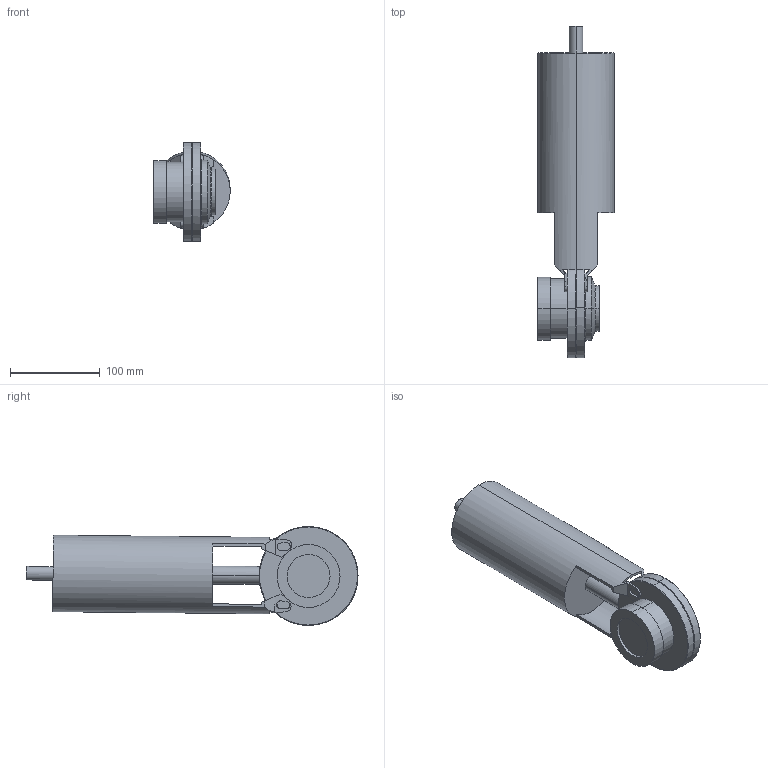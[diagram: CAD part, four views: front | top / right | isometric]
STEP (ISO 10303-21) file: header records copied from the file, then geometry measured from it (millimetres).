
FILE_DESCRIPTION(('Creo Elements/Direct Modeling STEP Export'),'2;1');
FILE_NAME('SV1-2T-FZ-1S2G-SMS.stp','2011-12-07T 8:45:37',(''),(''),'Creo Elements/Direct Modeling STEP processor for AP214 (Solid Model)','Creo Elements/Direct Modeling 17.0D 15-Jul-2011 (C) Parametric Technology GmbH','');
FILE_SCHEMA(('AUTOMOTIVE_DESIGN { 1 0 10303 214 1 1 1 1 }'));
Length unit declared in the file: millimetre
Products named in the file (2): SV1-2ZOLL-FZ-1S2G-SMS_Vereint
Assembly tree (1 placements, depth 2):
  SV1-2ZOLL-FZ-1S2G-SMS_Vereint
    SV1-2ZOLL-FZ-1S2G-SMS_Vereint
Bounding box: 85 x 369.06 x 110 mm (x, y, z)
Volume: 1390317.5 mm3; surface area: 115985.1 mm2
Topology: 1 solids, 1 shells, 127 faces, 352 edges, 229 vertices
Faces by surface type: plane 75, cylinder 38, cone 10, torus 4
Entity records: 4020 total; most frequent: CARTESIAN_POINT 785, ORIENTED_EDGE 704, DIRECTION 646, EDGE_CURVE 352, VERTEX_POINT 229, AXIS2_PLACEMENT_3D 224, VECTOR 198, LINE 198
